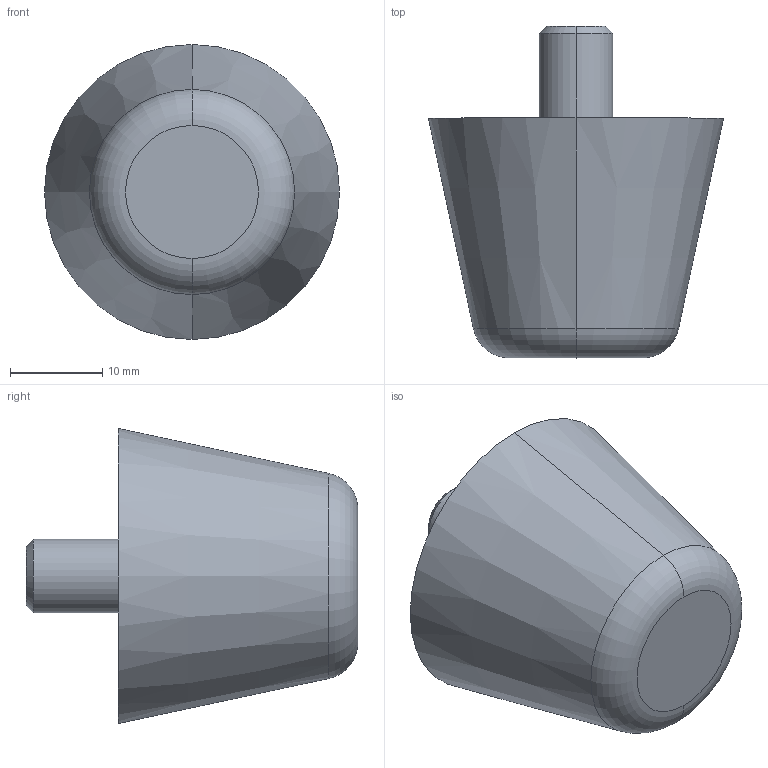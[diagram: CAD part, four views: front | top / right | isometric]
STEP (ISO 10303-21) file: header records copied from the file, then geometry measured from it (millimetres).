
FILE_DESCRIPTION (( 'STEP AP214' ), '1' );
FILE_NAME ('253-32-M8-10-55.step', '2023-03-24T07:37:48', ( '' ), ( '' ), 'SwSTEP 2.0', 'SolidWorks 2022', '' );
FILE_SCHEMA (( 'AUTOMOTIVE_DESIGN' ));
Length unit declared in the file: millimetre
Products named in the file (1): 253-32-M8-10-55
Bounding box: 32 x 35.99 x 32 mm (x, y, z)
Volume: 14857.3 mm3; surface area: 3523.1 mm2
Topology: 1 solids, 1 shells, 14 faces, 26 edges, 16 vertices
Faces by surface type: cone 6, plane 4, cylinder 2, torus 2
Entity records: 500 total; most frequent: DIRECTION 74, CARTESIAN_POINT 57, ORIENTED_EDGE 52, AXIS2_PLACEMENT_3D 33, EDGE_CURVE 26, CIRCLE 18, VERTEX_POINT 16, EDGE_LOOP 16
